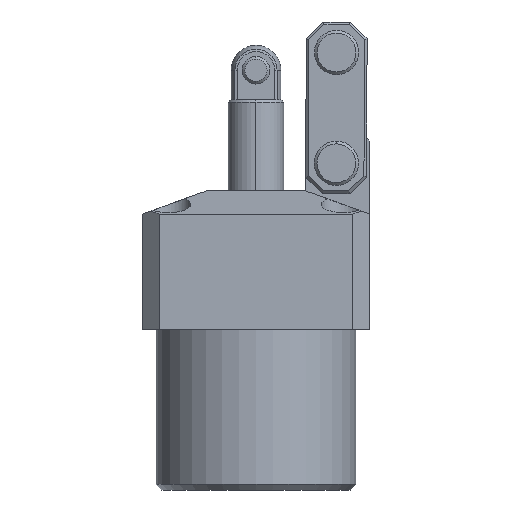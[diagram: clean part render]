
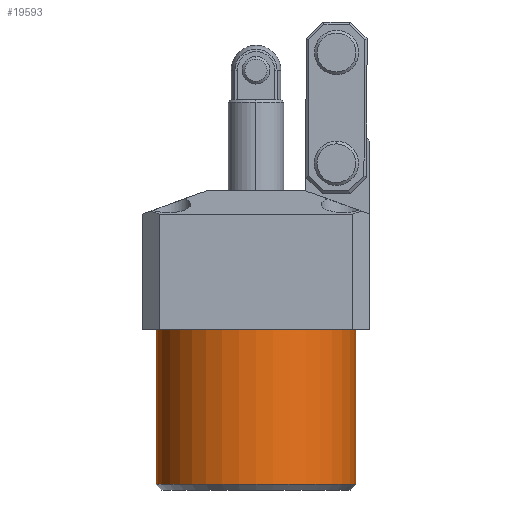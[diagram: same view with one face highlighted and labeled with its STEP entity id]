
A CAD part, front view. The second image highlights one B-rep face of the part: STEP entity #19593.
In plain terms, the highlighted cylindrical face has radius 18 mm (diameter 36 mm), a partial arc.
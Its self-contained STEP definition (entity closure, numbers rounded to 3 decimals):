
#144 = AXIS2_PLACEMENT_3D ( 'NONE', #23194, #5425, #10659 ) ;
#148 = VECTOR ( 'NONE', #11865, 1000. ) ;
#557 = DIRECTION ( 'NONE',  ( 1., 0., 0. ) ) ;
#681 = VERTEX_POINT ( 'NONE', #22147 ) ;
#782 = AXIS2_PLACEMENT_3D ( 'NONE', #14345, #3621, #16148 ) ;
#2547 = CARTESIAN_POINT ( 'NONE',  ( 18., 0., 0. ) ) ;
#3621 = DIRECTION ( 'NONE',  ( 0., 0., 1. ) ) ;
#4347 = ORIENTED_EDGE ( 'NONE', *, *, #21583, .F. ) ;
#5425 = DIRECTION ( 'NONE',  ( 0., 0., 1. ) ) ;
#6661 = VERTEX_POINT ( 'NONE', #2547 ) ;
#7842 = AXIS2_PLACEMENT_3D ( 'NONE', #22037, #11317, #557 ) ;
#8191 = VERTEX_POINT ( 'NONE', #15467 ) ;
#8401 = VECTOR ( 'NONE', #11228, 1000. ) ;
#9008 = VERTEX_POINT ( 'NONE', #17266 ) ;
#9141 = LINE ( 'NONE', #10036, #148 ) ;
#10036 = CARTESIAN_POINT ( 'NONE',  ( -18., 0., -29. ) ) ;
#10291 = CIRCLE ( 'NONE', #7842, 18. ) ;
#10659 = DIRECTION ( 'NONE',  ( 1., 0., 0. ) ) ;
#11122 = CYLINDRICAL_SURFACE ( 'NONE', #144, 18. ) ;
#11228 = DIRECTION ( 'NONE',  ( 0., 0., 1. ) ) ;
#11317 = DIRECTION ( 'NONE',  ( 0., 0., -1. ) ) ;
#11865 = DIRECTION ( 'NONE',  ( 0., 0., 1. ) ) ;
#12466 = ORIENTED_EDGE ( 'NONE', *, *, #16059, .T. ) ;
#14345 = CARTESIAN_POINT ( 'NONE',  ( 0., 0., -28. ) ) ;
#15467 = CARTESIAN_POINT ( 'NONE',  ( -18., 0., 0. ) ) ;
#16059 = EDGE_CURVE ( 'NONE', #9008, #6661, #18486, .T. ) ;
#16148 = DIRECTION ( 'NONE',  ( -1., 0., 0. ) ) ;
#17266 = CARTESIAN_POINT ( 'NONE',  ( 18., 0., -28. ) ) ;
#18486 = LINE ( 'NONE', #21872, #8401 ) ;
#19205 = ORIENTED_EDGE ( 'NONE', *, *, #21720, .T. ) ;
#19275 = EDGE_CURVE ( 'NONE', #6661, #8191, #10291, .T. ) ;
#19593 = ADVANCED_FACE ( 'NONE', ( #20659 ), #11122, .T. ) ;
#20540 = ORIENTED_EDGE ( 'NONE', *, *, #19275, .T. ) ;
#20659 = FACE_OUTER_BOUND ( 'NONE', #21669, .T. ) ;
#21583 = EDGE_CURVE ( 'NONE', #681, #8191, #9141, .T. ) ;
#21669 = EDGE_LOOP ( 'NONE', ( #4347, #19205, #12466, #20540 ) ) ;
#21720 = EDGE_CURVE ( 'NONE', #681, #9008, #21751, .T. ) ;
#21751 = CIRCLE ( 'NONE', #782, 18. ) ;
#21872 = CARTESIAN_POINT ( 'NONE',  ( 18., 0., -29. ) ) ;
#22037 = CARTESIAN_POINT ( 'NONE',  ( 0., 0., 0. ) ) ;
#22147 = CARTESIAN_POINT ( 'NONE',  ( -18., 0., -28. ) ) ;
#23194 = CARTESIAN_POINT ( 'NONE',  ( 0., 0., -29. ) ) ;
